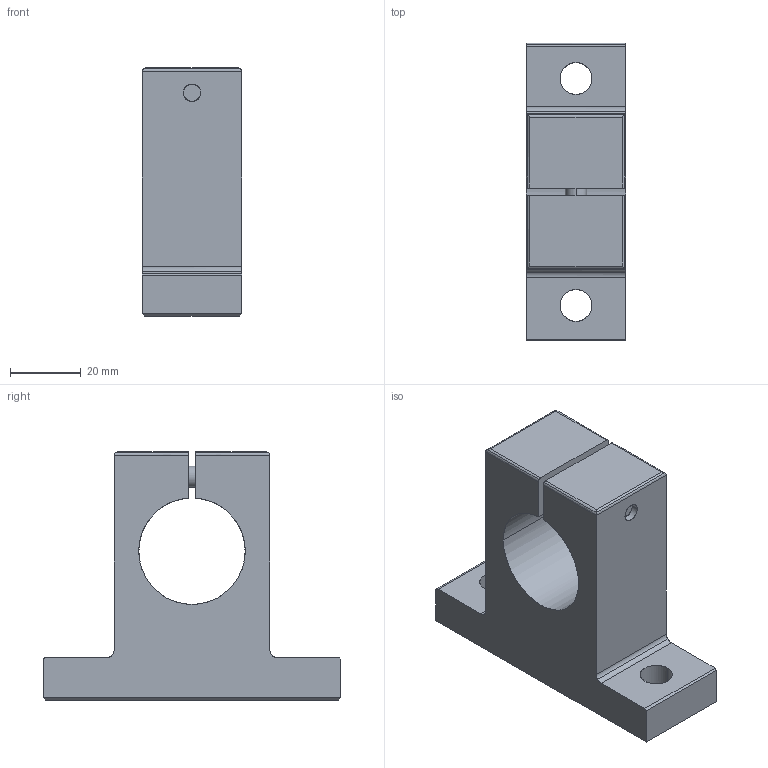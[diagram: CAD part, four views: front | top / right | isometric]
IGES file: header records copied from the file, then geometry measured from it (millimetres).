
Global section: file name: No Iges File Name specified; native system: AutoDesk Inventor R10; preprocessor: AutoDesk Inventor Iges Exporter R10; author: No Author specified; organization: No Organization specified; date: 20101214.153227; units: millimetre
Bounding box: 28 x 84 x 70 mm (x, y, z)
Surface area: 18792.4 mm2 (no closed solid volume)
Topology: 0 solids, 0 shells, 69 faces, 412 edges, 410 vertices
Faces by surface type: bspline 69
